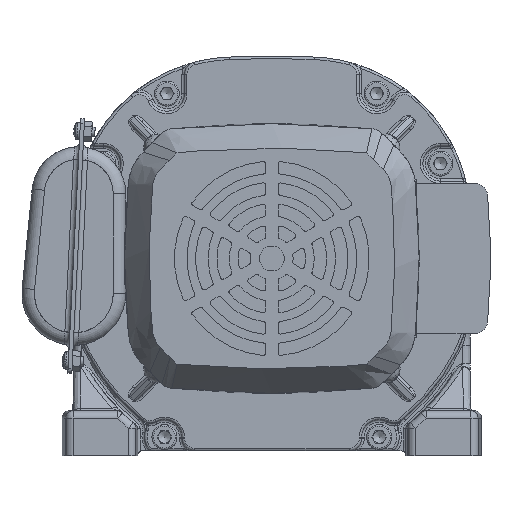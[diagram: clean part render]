
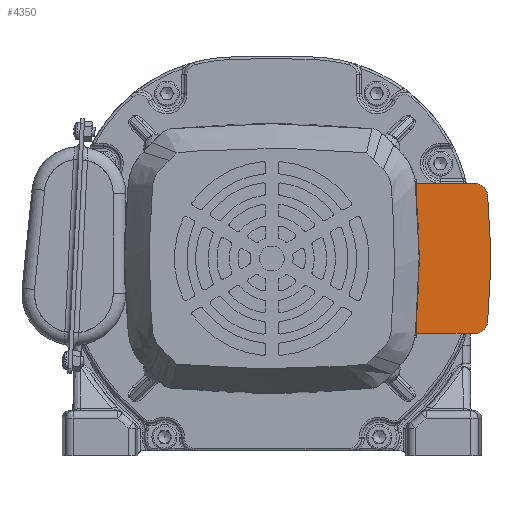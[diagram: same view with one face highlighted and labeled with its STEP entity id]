
A CAD part, left-side view. The second image highlights one B-rep face of the part: STEP entity #4350.
In plain terms, the highlighted planar face has unit normal (-1, 0, 0).
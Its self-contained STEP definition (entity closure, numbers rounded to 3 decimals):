
#4350 = ADVANCED_FACE( '', ( #9646 ), #9647, .T. );
#9646 = FACE_OUTER_BOUND( '', #24642, .T. );
#9647 = PLANE( '', #24643 );
#24642 = EDGE_LOOP( '', ( #42341, #42342, #42343, #42344, #42345, #42346 ) );
#24643 = AXIS2_PLACEMENT_3D( '', #42347, #42348, #42349 );
#42341 = ORIENTED_EDGE( '', *, *, #53858, .T. );
#42342 = ORIENTED_EDGE( '', *, *, #51643, .T. );
#42343 = ORIENTED_EDGE( '', *, *, #53859, .T. );
#42344 = ORIENTED_EDGE( '', *, *, #53860, .T. );
#42345 = ORIENTED_EDGE( '', *, *, #53861, .T. );
#42346 = ORIENTED_EDGE( '', *, *, #53862, .T. );
#42347 = CARTESIAN_POINT( '', ( -127.17, -81.439, -39.7 ) );
#42348 = DIRECTION( '', ( -1., 0., 0. ) );
#42349 = DIRECTION( '', ( 0., 1., 0. ) );
#51643 = EDGE_CURVE( '', #59802, #59803, #59804, .T. );
#53858 = EDGE_CURVE( '', #62904, #59802, #62905, .T. );
#53859 = EDGE_CURVE( '', #59803, #62906, #62907, .T. );
#53860 = EDGE_CURVE( '', #62906, #62908, #62909, .T. );
#53861 = EDGE_CURVE( '', #62908, #62910, #62911, .T. );
#53862 = EDGE_CURVE( '', #62910, #62904, #62912, .T. );
#59802 = VERTEX_POINT( '', #74625 );
#59803 = VERTEX_POINT( '', #74626 );
#59804 = CIRCLE( '', #74627, 300. );
#62904 = VERTEX_POINT( '', #81113 );
#62905 = CIRCLE( '', #81114, 5. );
#62906 = VERTEX_POINT( '', #81115 );
#62907 = CIRCLE( '', #81116, 5. );
#62908 = VERTEX_POINT( '', #81117 );
#62909 = LINE( '', #81118, #81119 );
#62910 = VERTEX_POINT( '', #81120 );
#62911 = LINE( '', #81121, #81122 );
#62912 = LINE( '', #81123, #81124 );
#74625 = CARTESIAN_POINT( '', ( -127.17, -86.421, -40.124 ) );
#74626 = CARTESIAN_POINT( '', ( -127.17, -86.421, 10.724 ) );
#74627 = AXIS2_PLACEMENT_3D( '', #87908, #87909, #87910 );
#81113 = CARTESIAN_POINT( '', ( -127.17, -81.439, -44.7 ) );
#81114 = AXIS2_PLACEMENT_3D( '', #90841, #90842, #90843 );
#81115 = CARTESIAN_POINT( '', ( -127.17, -81.439, 15.3 ) );
#81116 = AXIS2_PLACEMENT_3D( '', #90844, #90845, #90846 );
#81117 = CARTESIAN_POINT( '', ( -127.17, -58., 15.3 ) );
#81118 = CARTESIAN_POINT( '', ( -127.17, -58., 15.3 ) );
#81119 = VECTOR( '', #90847, 1000. );
#81120 = CARTESIAN_POINT( '', ( -127.17, -58., -44.7 ) );
#81121 = CARTESIAN_POINT( '', ( -127.17, -58., -44.7 ) );
#81122 = VECTOR( '', #90848, 1000. );
#81123 = CARTESIAN_POINT( '', ( -127.17, -81.439, -44.7 ) );
#81124 = VECTOR( '', #90849, 1000. );
#87908 = CARTESIAN_POINT( '', ( -127.17, 212.5, -14.7 ) );
#87909 = DIRECTION( '', ( -1., 0., 0. ) );
#87910 = DIRECTION( '', ( 0., 0., -1. ) );
#90841 = CARTESIAN_POINT( '', ( -127.17, -81.439, -39.7 ) );
#90842 = DIRECTION( '', ( -1., 0., 0. ) );
#90843 = DIRECTION( '', ( 0., 0., -1. ) );
#90844 = CARTESIAN_POINT( '', ( -127.17, -81.439, 10.3 ) );
#90845 = DIRECTION( '', ( -1., 0., 0. ) );
#90846 = DIRECTION( '', ( 0., 0., -1. ) );
#90847 = DIRECTION( '', ( 0., 1., 0. ) );
#90848 = DIRECTION( '', ( 0., 0., -1. ) );
#90849 = DIRECTION( '', ( 0., -1., 0. ) );
